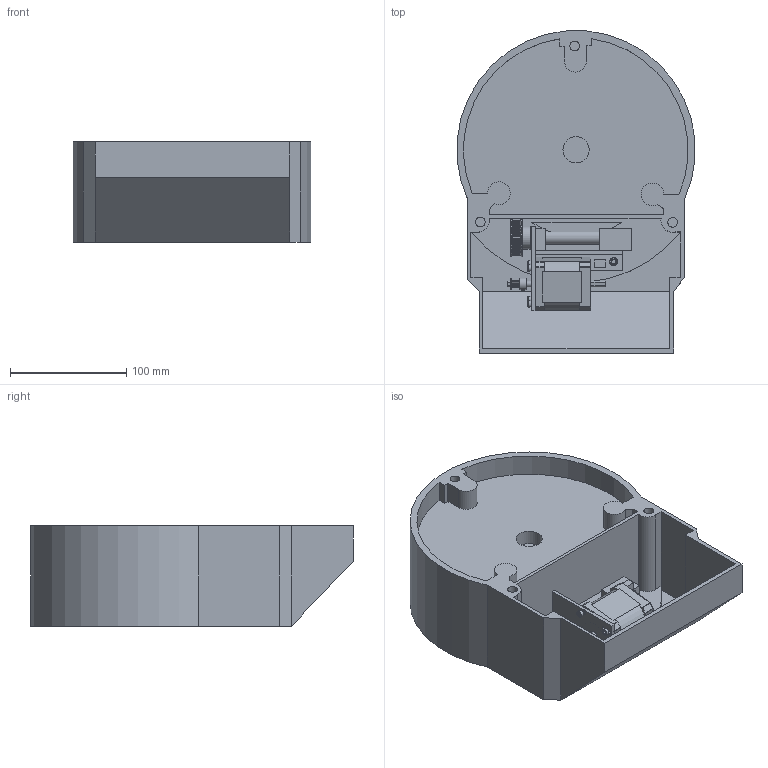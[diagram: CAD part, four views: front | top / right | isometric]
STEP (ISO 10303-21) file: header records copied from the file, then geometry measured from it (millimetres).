
FILE_DESCRIPTION(/* description */ ('Unknown'),/* implementation_level */ '2;1');
FILE_NAME(/* name */ 'LX200 RA ASM',/* time_stamp */ '2024-04-02T16:45:40-04:00',/* author */ ('Unknown'),/* organization */ ('Unknown'),/* preprocessor_version */ 'ST-DEVELOPER v16.7',/* originating_system */ 'DEX',/* authorisation */ $);
FILE_SCHEMA (('AUTOMOTIVE_DESIGN {1 0 10303 214 3 1 1}'));
Length unit declared in the file: millimetre
Products named in the file (10): _RA ASM; LX200 BASE; RA WORM; GT2_48T_0.25_6; GT2-12T-5-6; 4-40_Hex Flat Head Screw; RA Holder; 17HM19-1684D; 3mm_Socket Head Screw; 8-32_Socket Head
Assembly tree (16 placements, depth 2):
  _RA ASM
    LX200 BASE
    RA WORM
    GT2_48T_0.25_6
    GT2-12T-5-6
    4-40_Hex Flat Head Screw  x4
    RA Holder
    17HM19-1684D
    3mm_Socket Head Screw  x4
    8-32_Socket Head  x2
Bounding box: 204.7 x 277.43 x 86.36 mm (x, y, z)
Volume: 2331120.2 mm3; surface area: 267643.3 mm2
Topology: 18 solids, 18 shells, 1626 faces, 4879 edges, 3454 vertices
Faces by surface type: plane 682, cylinder 566, cone 305, bspline 34, torus 24, sphere 15
Full cylindrical faces by diameter (mm): 1.126 x4, 2.05 x4, 2.2 x2, 2.5 x4, 2.769 x4, 3 x2, 3.264 x4, 3.969 x1, 4 x2, 4.115 x2, 4.445 x2, 4.6 x4, 5 x3, 5.5 x4, 5.6 x2, 6 x4, 6.325 x1, 6.375 x1, 6.477 x4, 6.858 x2, 7 x2, 8.408 x1, 8.491 x2, 9.525 x1, 10 x2, 11.7 x1, 12.192 x1, 12.7 x3, 20 x1, 22 x1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
Entity records: 49158 total; most frequent: CARTESIAN_POINT 16046, DIRECTION 6482, ORIENTED_EDGE 6400, EDGE_CURVE 3200, AXIS2_PLACEMENT_3D 2415, VERTEX_POINT 2255, LINE 1652, VECTOR 1652
